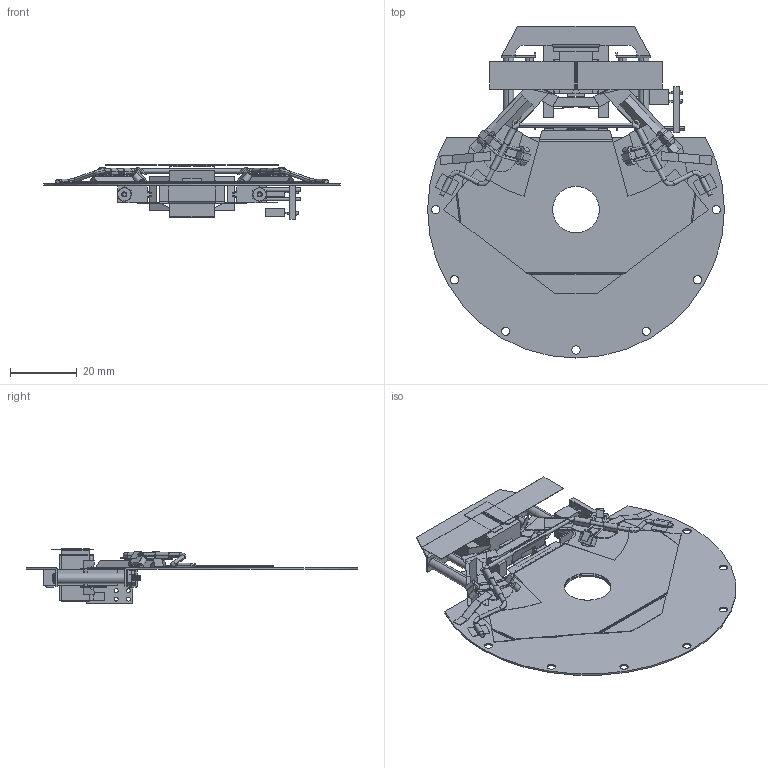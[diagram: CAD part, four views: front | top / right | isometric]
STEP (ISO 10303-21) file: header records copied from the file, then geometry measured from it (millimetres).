
FILE_DESCRIPTION (( 'STEP AP214' ), '1' );
FILE_NAME ('NO VSR14 3D Model Un-Housed.STEP', '2013-12-30T16:40:50', ( 'helen' ), ( 'Microsoft' ), 'SwSTEP 2.0', 'SolidWorks 2010', '' );
FILE_SCHEMA (( 'AUTOMOTIVE_DESIGN' ));
Length unit declared in the file: inch
Products named in the file (1): NO VSR14 3D Model Un-Housed
Bounding box: 88.9 x 99.47 x 16.42 mm (x, y, z)
Volume: 7340.3 mm3; surface area: 28096.6 mm2
Topology: 24 solids, 24 shells, 2130 faces, 5498 edges, 3411 vertices
Faces by surface type: plane 736, cone 680, cylinder 622, torus 68, bspline 20, sphere 4
Entity records: 93832 total; most frequent: CARTESIAN_POINT 12338, DIRECTION 11951, ORIENTED_EDGE 10988, EDGE_CURVE 5494, AXIS2_PLACEMENT_3D 4572, VERTEX_POINT 3411, VECTOR 2807, LINE 2807
